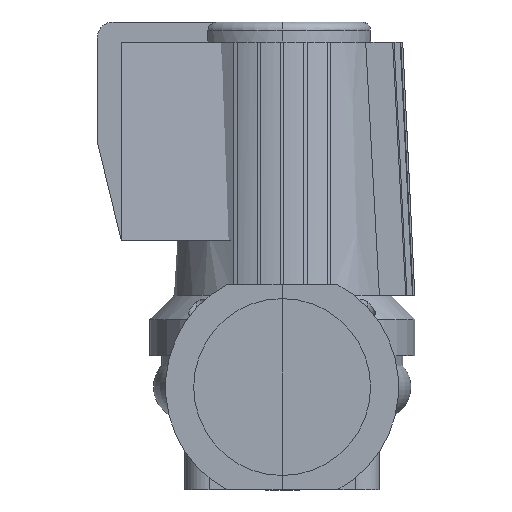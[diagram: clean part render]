
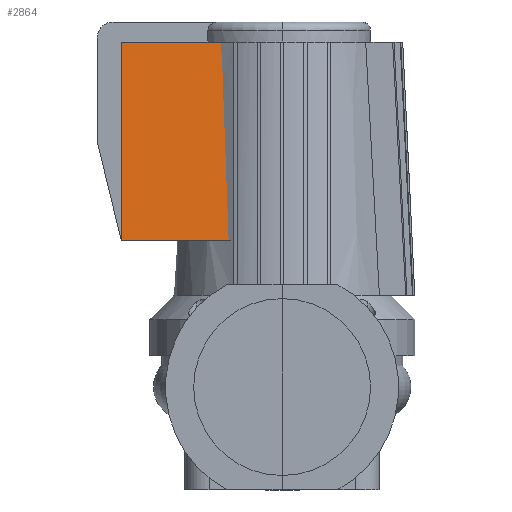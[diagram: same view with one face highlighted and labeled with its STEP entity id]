
A CAD part, left-side view. The second image highlights one B-rep face of the part: STEP entity #2864.
In plain terms, the highlighted planar face has unit normal (-0.997, 0, 0.081).
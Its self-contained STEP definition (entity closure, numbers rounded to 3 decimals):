
#249=PLANE('',#3119);
#406=FACE_OUTER_BOUND('',#590,.T.);
#590=EDGE_LOOP('',(#2420,#2421,#2422,#2423));
#744=LINE('',#6124,#953);
#752=LINE('',#6208,#961);
#761=LINE('',#6225,#970);
#762=LINE('',#6226,#971);
#953=VECTOR('',#3636,304.8);
#961=VECTOR('',#3652,304.8);
#970=VECTOR('',#3665,304.8);
#971=VECTOR('',#3666,304.8);
#1338=VERTEX_POINT('',#6122);
#1339=VERTEX_POINT('',#6123);
#1349=VERTEX_POINT('',#6206);
#1355=VERTEX_POINT('',#6224);
#1704=EDGE_CURVE('',#1338,#1339,#744,.T.);
#1717=EDGE_CURVE('',#1339,#1349,#752,.T.);
#1726=EDGE_CURVE('',#1355,#1349,#761,.T.);
#1727=EDGE_CURVE('',#1338,#1355,#762,.T.);
#2420=ORIENTED_EDGE('',*,*,#1726,.F.);
#2421=ORIENTED_EDGE('',*,*,#1727,.F.);
#2422=ORIENTED_EDGE('',*,*,#1704,.T.);
#2423=ORIENTED_EDGE('',*,*,#1717,.T.);
#2864=ADVANCED_FACE('',(#406),#249,.T.);
#3119=AXIS2_PLACEMENT_3D('',#6223,#3663,#3664);
#3636=DIRECTION('',(0.081,0.,0.997));
#3652=DIRECTION('',(0.,1.,0.));
#3663=DIRECTION('center_axis',(-0.997,0.,0.081));
#3664=DIRECTION('ref_axis',(0.,1.,0.));
#3665=DIRECTION('',(0.081,0.,0.997));
#3666=DIRECTION('',(0.,1.,0.));
#6122=CARTESIAN_POINT('',(32312.75,-35951.239,90.967));
#6123=CARTESIAN_POINT('',(32322.75,-35951.239,214.543));
#6124=CARTESIAN_POINT('',(32312.75,-35951.239,90.967));
#6206=CARTESIAN_POINT('',(32322.75,-35881.239,214.543));
#6208=CARTESIAN_POINT('',(32322.75,-35951.239,214.543));
#6223=CARTESIAN_POINT('Origin',(32322.75,-35981.239,214.543));
#6224=CARTESIAN_POINT('',(32312.75,-35881.239,90.967));
#6225=CARTESIAN_POINT('',(32312.75,-35881.239,90.967));
#6226=CARTESIAN_POINT('',(32312.75,-35951.239,90.967));
